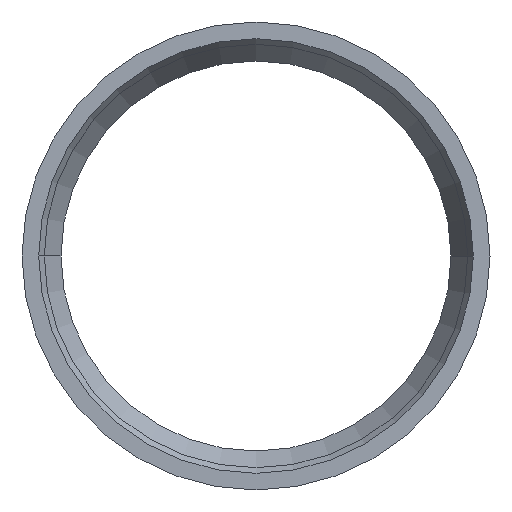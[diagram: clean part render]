
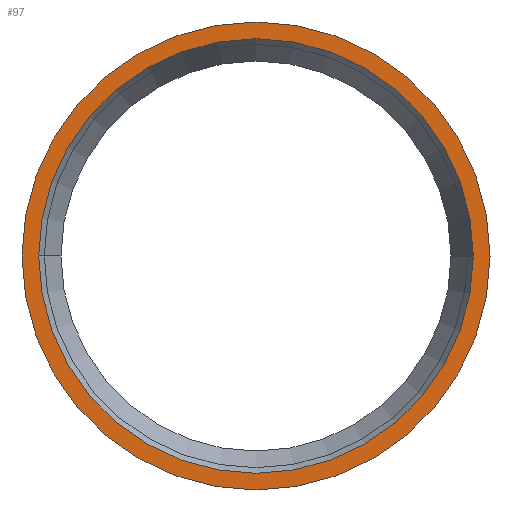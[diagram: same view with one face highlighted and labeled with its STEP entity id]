
A CAD part, left-side view. The second image highlights one B-rep face of the part: STEP entity #97.
In plain terms, the highlighted planar face has unit normal (-1, 0, 0).
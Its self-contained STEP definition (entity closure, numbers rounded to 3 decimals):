
#1 = ORIENTED_EDGE ( 'NONE', *, *, #23, .T. ) ;
#14 = EDGE_CURVE ( 'NONE', #344, #369, #34, .T. ) ;
#23 = EDGE_CURVE ( 'NONE', #489, #281, #453, .T. ) ;
#34 = CIRCLE ( 'NONE', #131, 21. ) ;
#45 = EDGE_CURVE ( 'NONE', #281, #489, #419, .T. ) ;
#69 = DIRECTION ( 'NONE',  ( 0., 0., -1. ) ) ;
#73 = DIRECTION ( 'NONE',  ( 1., 0., 0. ) ) ;
#78 = CARTESIAN_POINT ( 'NONE',  ( -498.75, 0., -19.5 ) ) ;
#94 = CARTESIAN_POINT ( 'NONE',  ( -498.75, 0., 19.5 ) ) ;
#97 = ADVANCED_FACE ( 'NONE', ( #366, #298 ), #175, .F. ) ;
#108 = AXIS2_PLACEMENT_3D ( 'NONE', #252, #261, #223 ) ;
#120 = ORIENTED_EDGE ( 'NONE', *, *, #14, .F. ) ;
#130 = EDGE_LOOP ( 'NONE', ( #120, #144 ) ) ;
#131 = AXIS2_PLACEMENT_3D ( 'NONE', #323, #326, #424 ) ;
#141 = AXIS2_PLACEMENT_3D ( 'NONE', #374, #345, #209 ) ;
#144 = ORIENTED_EDGE ( 'NONE', *, *, #147, .F. ) ;
#147 = EDGE_CURVE ( 'NONE', #369, #344, #273, .T. ) ;
#160 = CARTESIAN_POINT ( 'NONE',  ( -498.75, 0., 0. ) ) ;
#162 = CARTESIAN_POINT ( 'NONE',  ( -498.75, 0., 21. ) ) ;
#166 = DIRECTION ( 'NONE',  ( 1., 0., 0. ) ) ;
#168 = DIRECTION ( 'NONE',  ( 0., 0., -1. ) ) ;
#175 = PLANE ( 'NONE',  #210 ) ;
#202 = CARTESIAN_POINT ( 'NONE',  ( -498.75, 0., 0. ) ) ;
#209 = DIRECTION ( 'NONE',  ( 0., 0., -1. ) ) ;
#210 = AXIS2_PLACEMENT_3D ( 'NONE', #202, #166, #168 ) ;
#214 = AXIS2_PLACEMENT_3D ( 'NONE', #160, #73, #69 ) ;
#223 = DIRECTION ( 'NONE',  ( 0., 0., -1. ) ) ;
#246 = CARTESIAN_POINT ( 'NONE',  ( -498.75, 0., -21. ) ) ;
#252 = CARTESIAN_POINT ( 'NONE',  ( -498.75, 0., 0. ) ) ;
#261 = DIRECTION ( 'NONE',  ( 1., 0., 0. ) ) ;
#273 = CIRCLE ( 'NONE', #214, 21. ) ;
#281 = VERTEX_POINT ( 'NONE', #94 ) ;
#298 = FACE_OUTER_BOUND ( 'NONE', #130, .T. ) ;
#323 = CARTESIAN_POINT ( 'NONE',  ( -498.75, 0., 0. ) ) ;
#326 = DIRECTION ( 'NONE',  ( 1., 0., 0. ) ) ;
#344 = VERTEX_POINT ( 'NONE', #162 ) ;
#345 = DIRECTION ( 'NONE',  ( 1., 0., 0. ) ) ;
#366 = FACE_BOUND ( 'NONE', #476, .T. ) ;
#369 = VERTEX_POINT ( 'NONE', #246 ) ;
#374 = CARTESIAN_POINT ( 'NONE',  ( -498.75, 0., 0. ) ) ;
#419 = CIRCLE ( 'NONE', #141, 19.5 ) ;
#424 = DIRECTION ( 'NONE',  ( 0., 0., -1. ) ) ;
#453 = CIRCLE ( 'NONE', #108, 19.5 ) ;
#470 = ORIENTED_EDGE ( 'NONE', *, *, #45, .T. ) ;
#476 = EDGE_LOOP ( 'NONE', ( #470, #1 ) ) ;
#489 = VERTEX_POINT ( 'NONE', #78 ) ;
